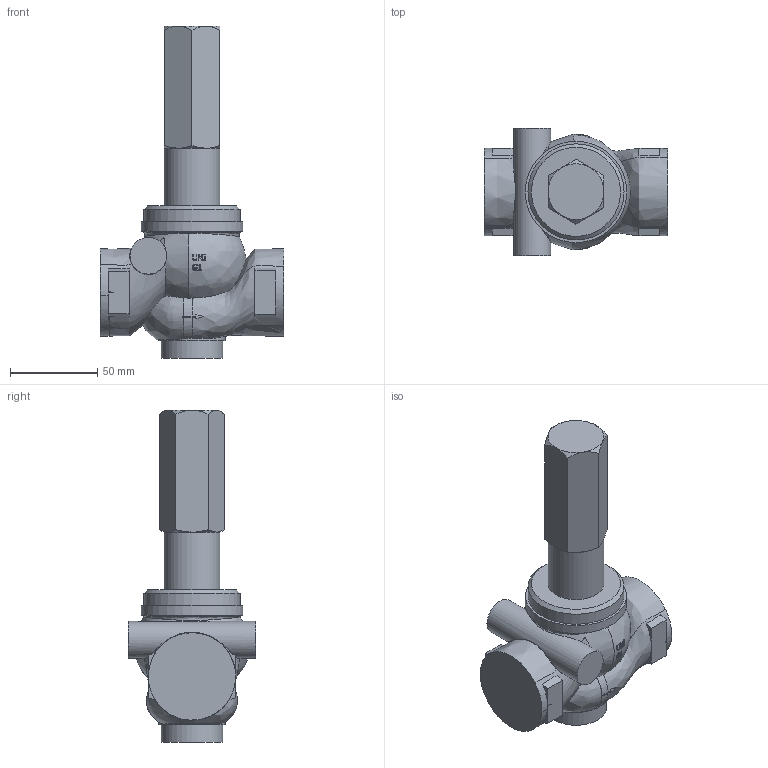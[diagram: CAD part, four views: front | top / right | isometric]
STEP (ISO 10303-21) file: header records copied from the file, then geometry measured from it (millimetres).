
FILE_DESCRIPTION((''),'2;1');
FILE_NAME('G:\CAD-Download\MEA\10-MEA\DN 25\10-MEA 10-4.stp','2010-05-19T11:59:50',('hb'),(''),'Autodesk Inventor 2008','Autodesk Inventor 2008','');
FILE_SCHEMA(('AUTOMOTIVE_DESIGN { 1 0 10303 214 1 1 1 1 }'));
Length unit declared in the file: millimetre
Products named in the file (1): 10-MEA 10-4
Bounding box: 105 x 73 x 190 mm (x, y, z)
Volume: 405771.6 mm3; surface area: 43164.6 mm2
Topology: 1 solids, 1 shells, 365 faces, 1030 edges, 687 vertices
Faces by surface type: plane 189, bspline 157, cylinder 12, cone 5, torus 2
Full cylindrical faces by diameter (mm): 4 x1, 21 x1, 32 x1, 35 x1, 38 x1, 55 x1, 58 x1
Entity records: 16799 total; most frequent: CARTESIAN_POINT 8517, ORIENTED_EDGE 2016, EDGE_CURVE 1008, DIRECTION 993, VERTEX_POINT 682, B_SPLINE_CURVE_WITH_KNOTS 552, EDGE_LOOP 402, FACE_OUTER_BOUND 365
